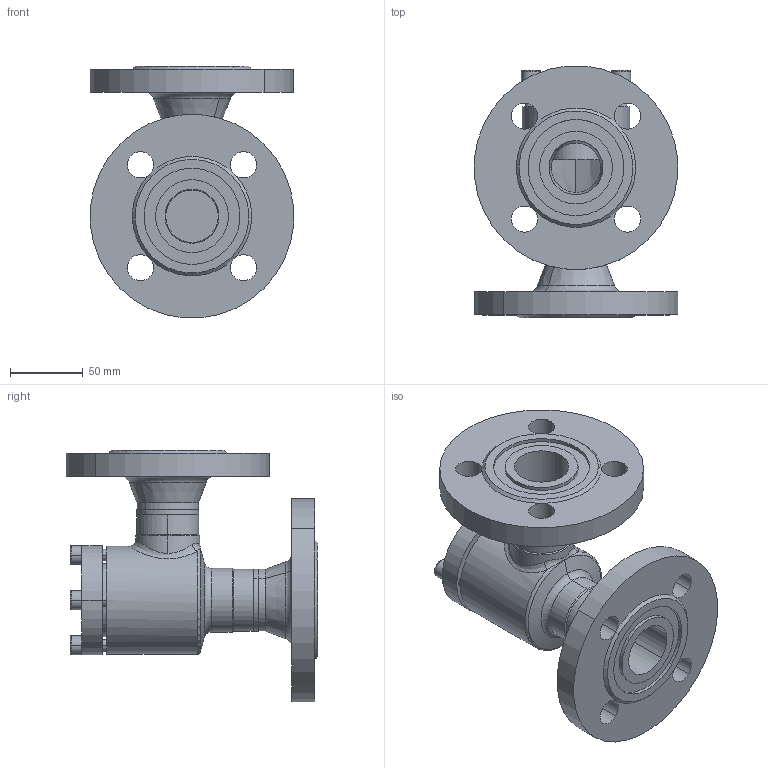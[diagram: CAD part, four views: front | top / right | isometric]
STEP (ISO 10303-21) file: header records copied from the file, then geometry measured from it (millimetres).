
FILE_DESCRIPTION (( 'STEP AP214' ), '1' );
FILE_NAME ('RV28420D13-DN032_DIN-FL-N_PS40.STEP', '2006-04-28T05:28:40', ( 'Herr Grams' ), ( 'AWP GmbH' ), 'SwSTEP 2.0', 'SolidWorks 2002296', '' );
FILE_SCHEMA (( 'AUTOMOTIVE_DESIGN' ));
Length unit declared in the file: millimetre
Products named in the file (9): RV28420D13-DN032_DIN-FL-N_PS40; Gehäuse-kpl16420-DN032_DIN_PS40_Standard; bead16420-Geh-032-2_Standard; bead16420-Geh-032-1_Standard; Gehäuse16400-DN032_Standard; Flansch-DIN2635-Nut_PS40_DIN-Flansch-DN032_PS40-Nut; RV28300E13_Deck+Schr-DN25-32_Standard; Deckel28300E13-DN25-32_Standard; Zylinderschraube-DIN912_M 8x 25
Assembly tree (12 placements, depth 3):
  RV28420D13-DN032_DIN-FL-N_PS40
    RV28300E13_Deck+Schr-DN25-32_Standard
      Zylinderschraube-DIN912_M 8x 25  x4
      Deckel28300E13-DN25-32_Standard
    Gehäuse-kpl16420-DN032_DIN_PS40_Standard
      bead16420-Geh-032-2_Standard
      Flansch-DIN2635-Nut_PS40_DIN-Flansch-DN032_PS40-Nut  x2
      bead16420-Geh-032-1_Standard
      Gehäuse16400-DN032_Standard
Bounding box: 139.47 x 172.73 x 172.73 mm (x, y, z)
Volume: 745650 mm3; surface area: 164012.6 mm2
Topology: 10 solids, 10 shells, 216 faces, 486 edges, 298 vertices
Faces by surface type: cylinder 86, plane 62, cone 42, torus 16, bspline 10
Entity records: 16094 total; most frequent: CARTESIAN_POINT 12527, DIRECTION 674, ORIENTED_EDGE 592, EDGE_CURVE 296, AXIS2_PLACEMENT_3D 285, VERTEX_POINT 180, EDGE_LOOP 158, CIRCLE 148
